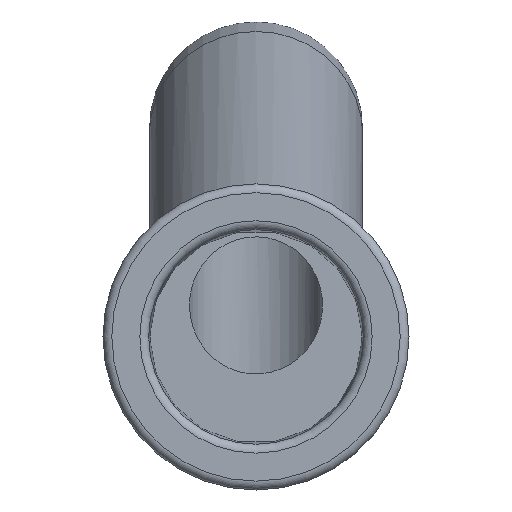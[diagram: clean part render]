
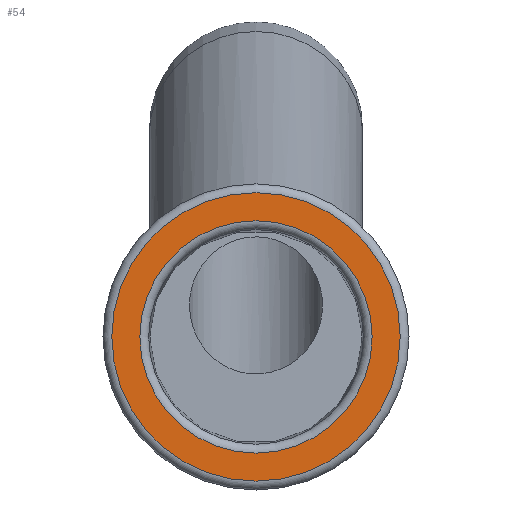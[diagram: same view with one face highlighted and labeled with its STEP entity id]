
A CAD part, front view. The second image highlights one B-rep face of the part: STEP entity #54.
In plain terms, the highlighted planar face has unit normal (0, -1, 0).
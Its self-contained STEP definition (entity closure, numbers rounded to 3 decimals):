
#54=ADVANCED_FACE('',(#82,#84),#86,.F.);
#82=FACE_BOUND('',#83,.T.);
#83=EDGE_LOOP('',(#255));
#84=FACE_BOUND('',#85,.T.);
#85=EDGE_LOOP('',(#256));
#86=PLANE('',#87);
#87=AXIS2_PLACEMENT_3D('',#88,#89,#90);
#88=CARTESIAN_POINT('',(0.,-100.,0.));
#89=DIRECTION('',(0.,1.,0.));
#90=DIRECTION('',(-1.,0.,0.));
#255=ORIENTED_EDGE('',*,*,#301,.F.);
#256=ORIENTED_EDGE('',*,*,#302,.T.);
#301=EDGE_CURVE('',#326,#326,#327,.T.);
#302=EDGE_CURVE('',#328,#328,#329,.F.);
#326=VERTEX_POINT('',#381);
#327=CIRCLE('',#382,16.25);
#328=VERTEX_POINT('',#386);
#329=CIRCLE('',#387,13.091);
#381=CARTESIAN_POINT('',(-16.25,-100.,0.));
#382=AXIS2_PLACEMENT_3D('',#383,#384,#385);
#383=CARTESIAN_POINT('',(0.,-100.,0.));
#384=DIRECTION('',(0.,1.,0.));
#385=DIRECTION('',(-1.,0.,0.));
#386=CARTESIAN_POINT('',(-13.091,-100.,0.));
#387=AXIS2_PLACEMENT_3D('',#388,#389,#390);
#388=CARTESIAN_POINT('',(0.,-100.,0.));
#389=DIRECTION('',(0.,-1.,0.));
#390=DIRECTION('',(-1.,0.,0.));
